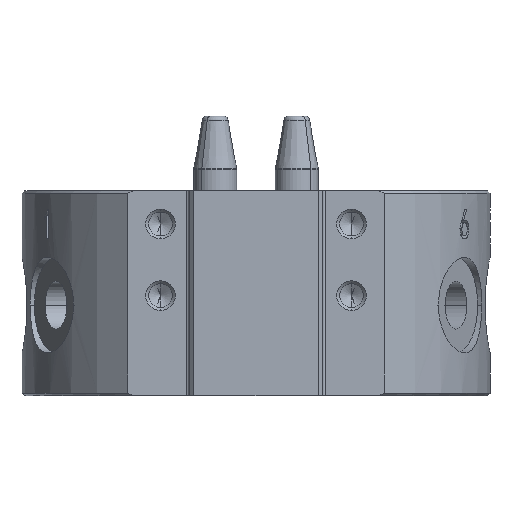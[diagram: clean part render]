
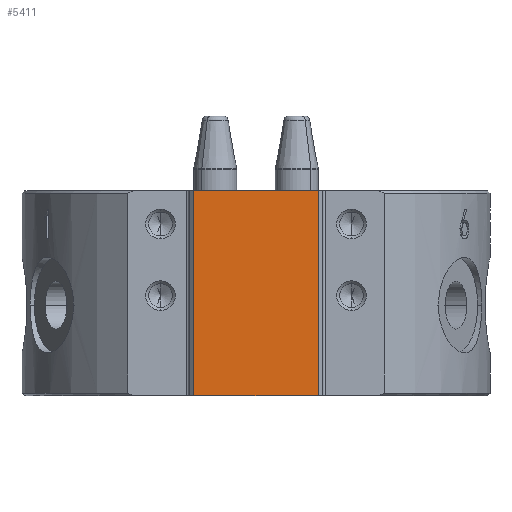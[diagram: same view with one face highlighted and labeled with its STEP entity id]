
A CAD part, front view. The second image highlights one B-rep face of the part: STEP entity #5411.
In plain terms, the highlighted planar face has unit normal (0, -1, 0).
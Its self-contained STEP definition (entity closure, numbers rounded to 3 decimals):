
#108 = EDGE_CURVE ( 'NONE', #7521, #2746, #4914, .T. ) ;
#173 = ORIENTED_EDGE ( 'NONE', *, *, #3800, .T. ) ;
#253 = EDGE_CURVE ( 'NONE', #9853, #3226, #4034, .T. ) ;
#1315 = CARTESIAN_POINT ( 'NONE',  ( 7., -22.5, 0. ) ) ;
#1824 = LINE ( 'NONE', #1315, #9048 ) ;
#1970 = CARTESIAN_POINT ( 'NONE',  ( 6.5, -22.5, -48.629 ) ) ;
#2426 = CARTESIAN_POINT ( 'NONE',  ( -6.5, -22.5, 0. ) ) ;
#2665 = ORIENTED_EDGE ( 'NONE', *, *, #253, .T. ) ;
#2746 = VERTEX_POINT ( 'NONE', #10585 ) ;
#3143 = DIRECTION ( 'NONE',  ( 0., 0., 1. ) ) ;
#3183 = DIRECTION ( 'NONE',  ( -1., 0., 0. ) ) ;
#3226 = VERTEX_POINT ( 'NONE', #10169 ) ;
#3800 = EDGE_CURVE ( 'NONE', #2746, #9853, #5026, .T. ) ;
#4034 = LINE ( 'NONE', #1970, #6233 ) ;
#4091 = ORIENTED_EDGE ( 'NONE', *, *, #108, .T. ) ;
#4899 = CARTESIAN_POINT ( 'NONE',  ( -6.5, -22.5, -48.629 ) ) ;
#4914 = LINE ( 'NONE', #4899, #9972 ) ;
#5026 = LINE ( 'NONE', #10043, #9807 ) ;
#5411 = ADVANCED_FACE ( 'NONE', ( #6374 ), #11582, .F. ) ;
#5738 = ORIENTED_EDGE ( 'NONE', *, *, #7206, .T. ) ;
#6233 = VECTOR ( 'NONE', #8238, 1000. ) ;
#6374 = FACE_OUTER_BOUND ( 'NONE', #11685, .T. ) ;
#7206 = EDGE_CURVE ( 'NONE', #3226, #7521, #1824, .T. ) ;
#7521 = VERTEX_POINT ( 'NONE', #2426 ) ;
#7689 = DIRECTION ( 'NONE',  ( 0., 0., -1. ) ) ;
#8238 = DIRECTION ( 'NONE',  ( 0., 0., 1. ) ) ;
#8700 = CARTESIAN_POINT ( 'NONE',  ( 6.5, -22.5, -21.5 ) ) ;
#8812 = DIRECTION ( 'NONE',  ( 0., 1., 0. ) ) ;
#9048 = VECTOR ( 'NONE', #3183, 1000. ) ;
#9807 = VECTOR ( 'NONE', #10244, 1000. ) ;
#9853 = VERTEX_POINT ( 'NONE', #8700 ) ;
#9972 = VECTOR ( 'NONE', #7689, 1000. ) ;
#10043 = CARTESIAN_POINT ( 'NONE',  ( 7., -22.5, -21.5 ) ) ;
#10169 = CARTESIAN_POINT ( 'NONE',  ( 6.5, -22.5, 0. ) ) ;
#10244 = DIRECTION ( 'NONE',  ( 1., 0., 0. ) ) ;
#10585 = CARTESIAN_POINT ( 'NONE',  ( -6.5, -22.5, -21.5 ) ) ;
#10638 = CARTESIAN_POINT ( 'NONE',  ( 7., -22.5, -48.629 ) ) ;
#11582 = PLANE ( 'NONE',  #12167 ) ;
#11685 = EDGE_LOOP ( 'NONE', ( #173, #2665, #5738, #4091 ) ) ;
#12167 = AXIS2_PLACEMENT_3D ( 'NONE', #10638, #8812, #3143 ) ;
